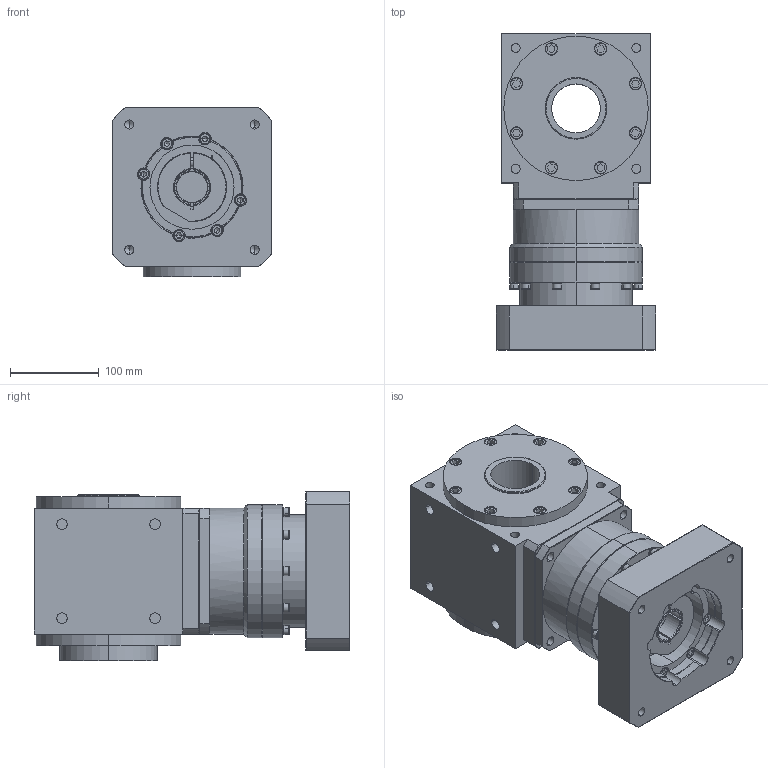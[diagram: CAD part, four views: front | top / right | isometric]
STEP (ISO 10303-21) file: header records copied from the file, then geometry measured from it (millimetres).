
FILE_DESCRIPTION (( 'STEP AP203' ), '1' );
FILE_NAME ('AAW165AS-L1-RF 35-114.3-200-M12.STEP', '2024-12-24T07:52:46', ( '' ), ( '' ), 'SwSTEP 2.0', 'SolidWorks 2021', '' );
FILE_SCHEMA (( 'CONFIG_CONTROL_DESIGN' ));
Length unit declared in the file: millimetre
Products named in the file (3): AAW165AS-RF; AAW165AS-L1-RF 35-114.3-200-M12; VRB-142-L1-S2-P1 35-114.3-200-M12
Assembly tree (2 placements, depth 2):
  AAW165AS-L1-RF 35-114.3-200-M12
    AAW165AS-RF
    VRB-142-L1-S2-P1 35-114.3-200-M12
Bounding box: 180 x 356.5 x 191 mm (x, y, z)
Volume: 7702652.2 mm3; surface area: 560381.1 mm2
Topology: 40 solids, 40 shells, 1256 faces, 2967 edges, 1852 vertices
Faces by surface type: plane 607, cylinder 440, cone 173, torus 36
Entity records: 36933 total; most frequent: CARTESIAN_POINT 7332, DIRECTION 6488, ORIENTED_EDGE 5790, EDGE_CURVE 2895, AXIS2_PLACEMENT_3D 2502, VERTEX_POINT 1852, VECTOR 1484, LINE 1484
